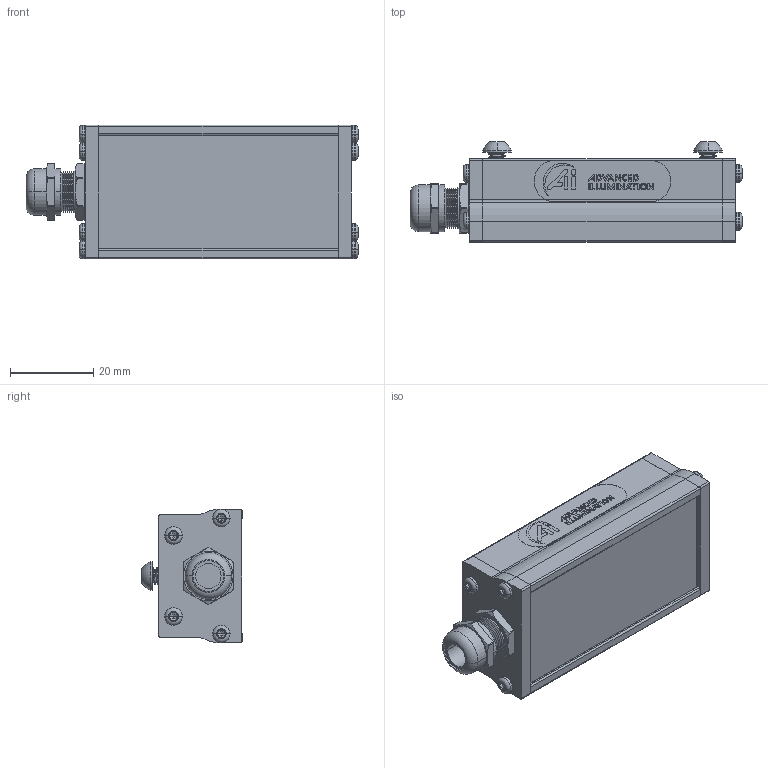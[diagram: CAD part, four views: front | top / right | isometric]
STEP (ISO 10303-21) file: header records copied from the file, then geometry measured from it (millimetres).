
FILE_DESCRIPTION (( 'STEP AP214' ), '1' );
FILE_NAME ('AL116 _NONSEALED__ALL11602.stp', '2021-04-29T14:22:03', ( '' ), ( '' ), 'SwSTEP 2.0', 'SolidWorks 2018', '' );
FILE_SCHEMA (( 'AUTOMOTIVE_DESIGN' ));
Length unit declared in the file: inch
Products named in the file (15): 090878-XX_090878-02; 093474_093474; 093469_093469; 10mm Swish_Default<As Machined>; 091064_Model_Dome Fittings_Thread Type and Size(Dome)_M10 x 1.5_Hazardous Location-Explosive Proof(ATEX and EExe Versions)_No_; HN-M4_90592A016; 090870; 10mm Label (116 126)_Default<As Machined>; AL116 _NONSEALED__ALL11602; 10mm Advanced illumination; BH-M4x6; 090869; 090888-XX_090888-02; 10mm Ai; 091052 (116 126)
Assembly tree (24 placements, depth 3):
  AL116 _NONSEALED__ALL11602
    090888-XX_090888-02
    093469_093469  x2
    090869
    090870
    090878-XX_090878-02
    093474_093474  x8
    091064_Model_Dome Fittings_Thread Type and Size(Dome)_M10 x 1.5_Hazardous Location-Explosive Proof(ATEX and EExe Versions)_No_
    091052 (116 126)
      10mm Label (116 126)_Default<As Machined>
      10mm Ai
      10mm Swish_Default<As Machined>
      10mm Advanced illumination
    HN-M4_90592A016  x2
    BH-M4x6  x2
Bounding box: 79.93 x 24.1 x 32.21 mm (x, y, z)
Volume: 16062.5 mm3; surface area: 23271.4 mm2
Topology: 48 solids, 48 shells, 1911 faces, 4942 edges, 3078 vertices
Faces by surface type: cylinder 954, plane 413, cone 362, bspline 122, torus 60
Entity records: 31843 total; most frequent: CARTESIAN_POINT 11151, ORIENTED_EDGE 4280, DIRECTION 3753, EDGE_CURVE 2140, VERTEX_POINT 1366, AXIS2_PLACEMENT_3D 1335, LINE 1083, VECTOR 1083
